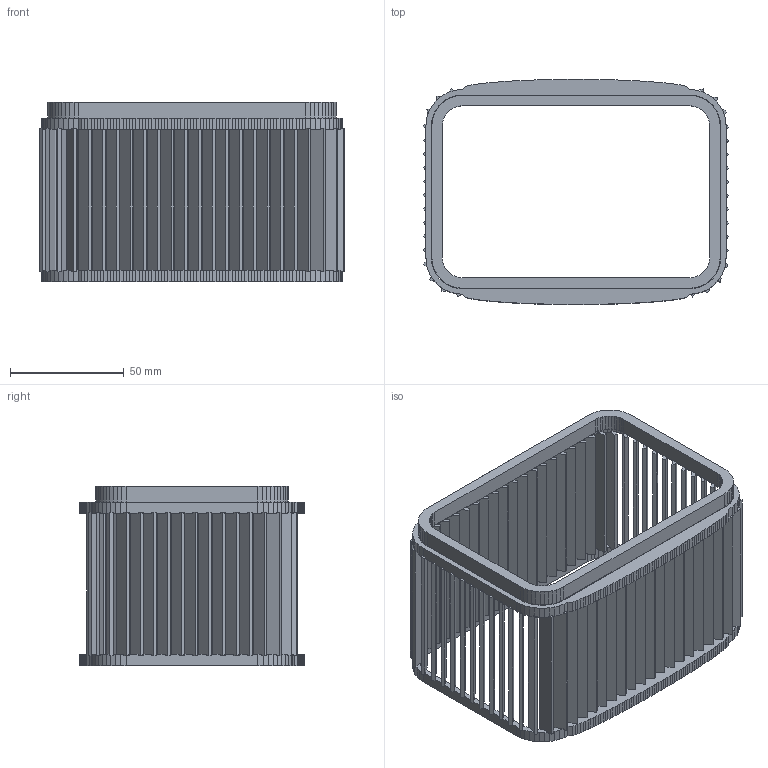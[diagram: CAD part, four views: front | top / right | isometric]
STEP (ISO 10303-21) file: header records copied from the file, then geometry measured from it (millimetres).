
FILE_DESCRIPTION(('Open CASCADE Model'),'2;1');
FILE_NAME('Open CASCADE Shape Model','2026-10-16T13:32:03',('Author'),( 'Open CASCADE'),'Open CASCADE STEP processor 7.9','Open CASCADE 7.9' ,'Unknown');
FILE_SCHEMA(('AUTOMOTIVE_DESIGN { 1 0 10303 214 1 1 1 1 }'));
Length unit declared in the file: millimetre
Products named in the file (3): Open CASCADE STEP translator 7.9 7; Open CASCADE STEP translator 7.9 7.1; Open CASCADE STEP translator 7.9 7.2
Assembly tree (2 placements, depth 2):
  Open CASCADE STEP translator 7.9 7
    Open CASCADE STEP translator 7.9 7.1
    Open CASCADE STEP translator 7.9 7.2
Bounding box: 134.4 x 99 x 79 mm (x, y, z)
Volume: 76277.2 mm3; surface area: 95784.4 mm2
Topology: 2 solids, 2 shells, 1110 faces, 3720 edges, 2480 vertices
Faces by surface type: plane 1110
Entity records: 85536 total; most frequent: CARTESIAN_POINT 17521, DIRECTION 10618, LINE 8392, VECTOR 8392, ORIENTED_EDGE 7440, PCURVE 7440, DEFINITIONAL_REPRESENTATION 7440, EDGE_CURVE 3720
